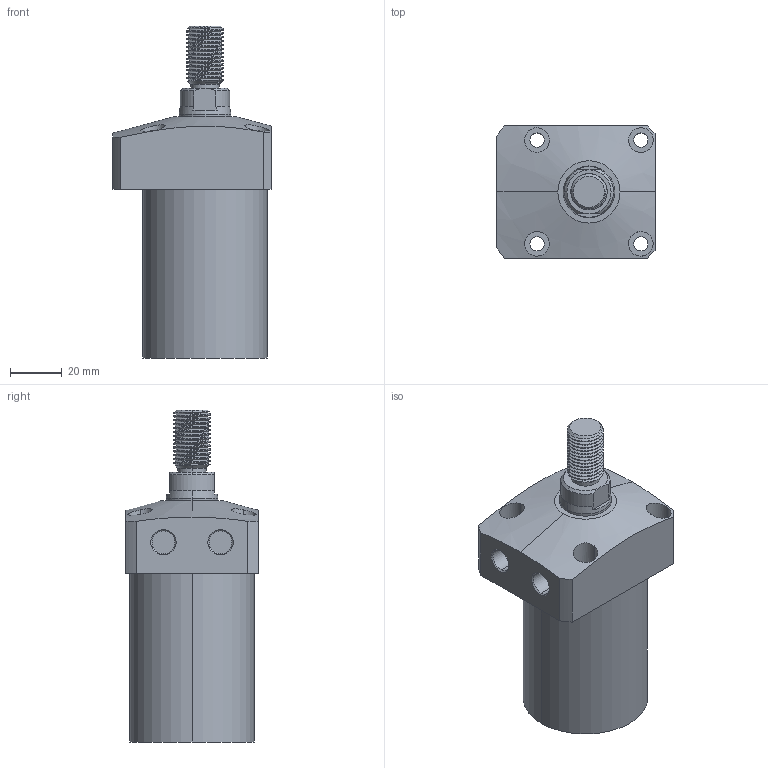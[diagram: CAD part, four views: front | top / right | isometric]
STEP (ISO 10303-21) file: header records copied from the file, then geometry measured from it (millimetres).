
FILE_DESCRIPTION (( 'STEP AP203' ), '1' );
FILE_NAME ('CLL-048CT-055.STEP', '2020-01-10T01:14:49', ( '' ), ( '' ), 'SwSTEP 2.0', 'SolidWorks 2015', '' );
FILE_SCHEMA (( 'CONFIG_CONTROL_DESIGN' ));
Length unit declared in the file: millimetre
Products named in the file (1): CLL-048CT-055
Bounding box: 61 x 51 x 128 mm (x, y, z)
Volume: 196671.7 mm3; surface area: 25760.7 mm2
Topology: 1 solids, 1 shells, 105 faces, 262 edges, 170 vertices
Faces by surface type: cylinder 63, plane 24, cone 16, bspline 2
Entity records: 5147 total; most frequent: CARTESIAN_POINT 2703, ORIENTED_EDGE 524, DIRECTION 464, EDGE_CURVE 262, AXIS2_PLACEMENT_3D 184, VERTEX_POINT 170, EDGE_LOOP 124, ADVANCED_FACE 105
